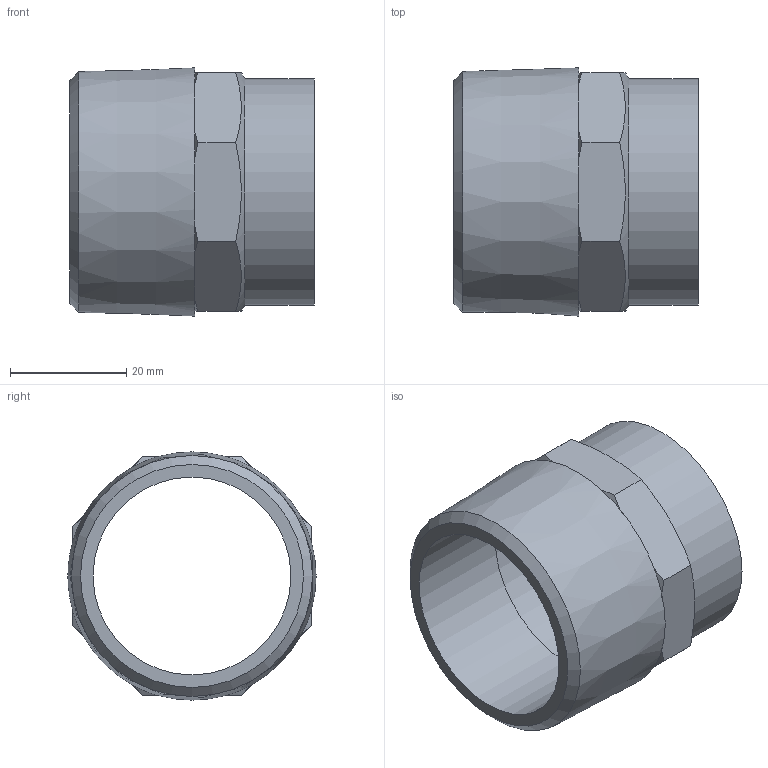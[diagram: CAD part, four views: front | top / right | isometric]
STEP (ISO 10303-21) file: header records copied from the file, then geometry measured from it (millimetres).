
FILE_DESCRIPTION((''),'2;1');
FILE_NAME('\\Lg50001\Groups\SANHA Legnica\Engineering\Public\RYSUNKI\SANHA POLSKA\4243G\step\14243_35-114(3).stp','2008-08-26T09:12:10',('pajchrowski'),(''),'Autodesk Inventor 2008','Autodesk Inventor 2008','');
FILE_SCHEMA(('AUTOMOTIVE_DESIGN { 1 0 10303 214 1 1 1 1 }'));
Length unit declared in the file: millimetre
Products named in the file (1): 14243_35-114(3)
Bounding box: 42 x 42.66 x 42.66 mm (x, y, z)
Volume: 16311.2 mm3; surface area: 10796.6 mm2
Topology: 1 solids, 1 shells, 33 faces, 72 edges, 42 vertices
Faces by surface type: plane 19, cone 11, cylinder 3
Full cylindrical faces by diameter (mm): 34 x1, 35 x1, 39 x1
Entity records: 844 total; most frequent: CARTESIAN_POINT 186, DIRECTION 132, ORIENTED_EDGE 128, EDGE_CURVE 64, AXIS2_PLACEMENT_3D 58, EDGE_LOOP 42, VERTEX_POINT 40, FACE_OUTER_BOUND 33
